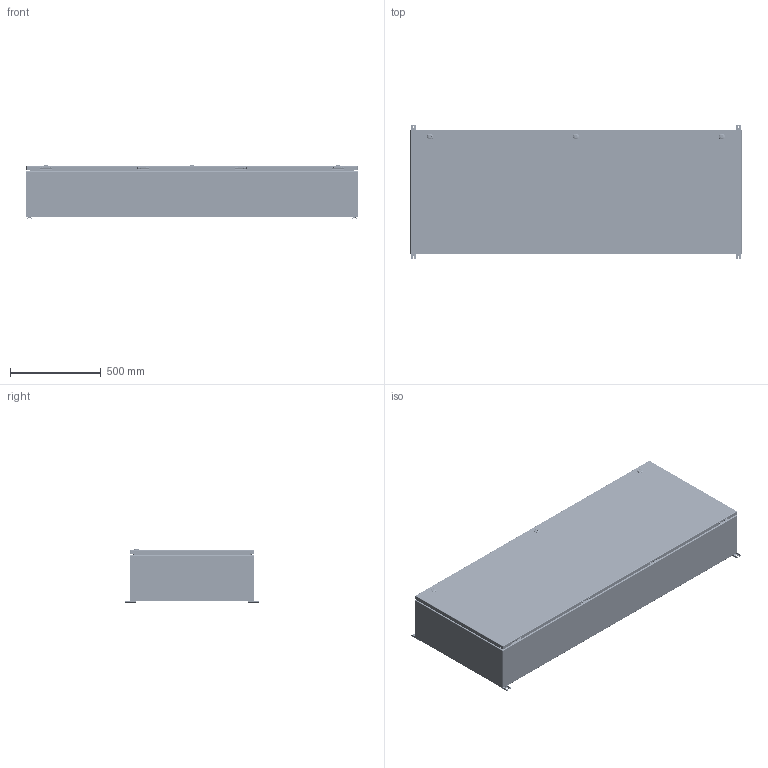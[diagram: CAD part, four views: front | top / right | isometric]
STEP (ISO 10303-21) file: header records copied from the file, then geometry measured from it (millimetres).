
FILE_DESCRIPTION(/* description */ ('1412BTSSCU 1600A - 3 Wires x 72" Assembly'),/* implementation_level */ '2;1');
FILE_NAME(/* name */ 'C:\Vault_Workspace\Inventor_Dwg\BoxCad\Result\1412BTSSCU061603\e-mail\3D\1412BTSSCU061603.stp',/* time_stamp */ '2022-09-19T13:00:08-04:00',/* author */ ('BoxCad'),/* organization */ (''),/* preprocessor_version */ 'ST-DEVELOPER v18.1',/* originating_system */ 'Autodesk Inventor 2020',/* authorisation */ '');
FILE_SCHEMA (('AUTOMOTIVE_DESIGN { 1 0 10303 214 3 1 1 }'));
Products named in the file (50): 1412BTSSCU061603; 1412BTSSCU061603B; 1412BTSSCU061603B-P; STK-Q-16020; 1412BTSSCU061603C; 1412BTSSCU061603C-P; 1412BTSSCU061603G; STK-Q-16095; STK-K-09850-1; STK-Q-33019; STK-Q-90111; STK-Q-40096; STK-Q-63412; STK-S-00100; STK-A-880SCQ4-SLSS6-1; STK-A-880SCQ4-SLSS6-2; STK-A-880SCQ4-SLSS6-3; STK-Q-70621; STK-Q-70631; STK-Q-78145; STK-Q-03200; STK-Q-78125; STK-Q-90390; STK-Q-78160; STK-Q-78141; 1412BTSSCU061603IP1; 1412BTSSCU061603IP1-P; STK-P-02401S; STK-Q-07610; STK-A-67400; STK-Q-67400; STK-G-22300; STK-Q-67420; STK-Q-40800; STK-Q-67430; STK-Q-07310; 1412BTSSCU061603BAR1-P; 1412BTSSCU061603BAR2-P; 1412BTSSCU061603BAR3-P; 1412BTSSCU061603MF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
Assembly tree (119 placements, depth 4):
  1412BTSSCU061603
    1412BTSSCU061603B
      1412BTSSCU061603B-P
      STK-Q-16095
      STK-Q-16020  x8
      STK-S-00100
    1412BTSSCU061603C
      1412BTSSCU061603C-P
      1412BTSSCU061603G
      STK-Q-16095
      STK-K-09850-1  x4
        STK-Q-33019
        STK-Q-90111
        STK-Q-40096
        STK-Q-63412
      STK-S-00100
      STK-A-880SCQ4-SLSS6-1
        STK-Q-70621
        STK-Q-70631
        STK-Q-78145
        STK-Q-03200
        STK-Q-78125
        STK-Q-90390
        STK-Q-78160
        STK-Q-78141
      STK-A-880SCQ4-SLSS6-2
        STK-Q-70621
        STK-Q-70631
        STK-Q-78145
        STK-Q-03200
        STK-Q-78125
        STK-Q-90390
        STK-Q-78160
        STK-Q-78141
      STK-A-880SCQ4-SLSS6-3
        STK-Q-70621
        STK-Q-70631
        STK-Q-78145
        STK-Q-03200
        STK-Q-78125
        STK-Q-90390
        STK-Q-78160
        STK-Q-78141
    1412BTSSCU061603IP1
      1412BTSSCU061603IP1-P
      STK-P-02401S
    STK-Q-07610  x6
    STK-Q-07310  x15
    STK-A-67400  x9
      STK-Q-67400
      STK-G-22300
      STK-Q-67420
      STK-Q-40800
      STK-Q-67430
    1412BTSSCU061603BAR1-P
    1412BTSSCU061603BAR2-P
    1412BTSSCU061603BAR3-P
    1412BTSSCU061603MF
      885ESMF2-FEET  x2
      885ESMF2-FEET-A  x2
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Bounding box: 1828.8 x 742.95 x 294.2 mm (x, y, z)
Volume: 14765271.2 mm3; surface area: 11204793.1 mm2
Topology: 175 solids, 175 shells, 25445 faces, 67284 edges, 42167 vertices
Faces by surface type: plane 9034, bspline 7440, cylinder 6438, torus 1738, sphere 522, cone 273
Full cylindrical faces by diameter (mm): 0.75 x10, 0.762 x10, 1 x16, 1.1 x16, 3.2 x8, 4.5 x36, 4.85 x32, 4.917 x4, 4.95 x8, 5.1 x33, 5.9 x78, 6.65 x9, 6.655 x8, 6.85 x60, 7.366 x8, 7.8 x369, 8 x28, 8.25 x18, 8.6 x12, 9.6 x3, 9.7 x48, 9.906 x4, 10 x7, 10.312 x2, 11.5 x18, 12 x13, 12.7 x2, 12.8 x3, 13 x3, 14 x8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
Entity records: 202077 total; most frequent: CARTESIAN_POINT 82177, ORIENTED_EDGE 26980, DIRECTION 20637, EDGE_CURVE 13490, VERTEX_POINT 8606, AXIS2_PLACEMENT_3D 7065, LINE 6507, VECTOR 6507
